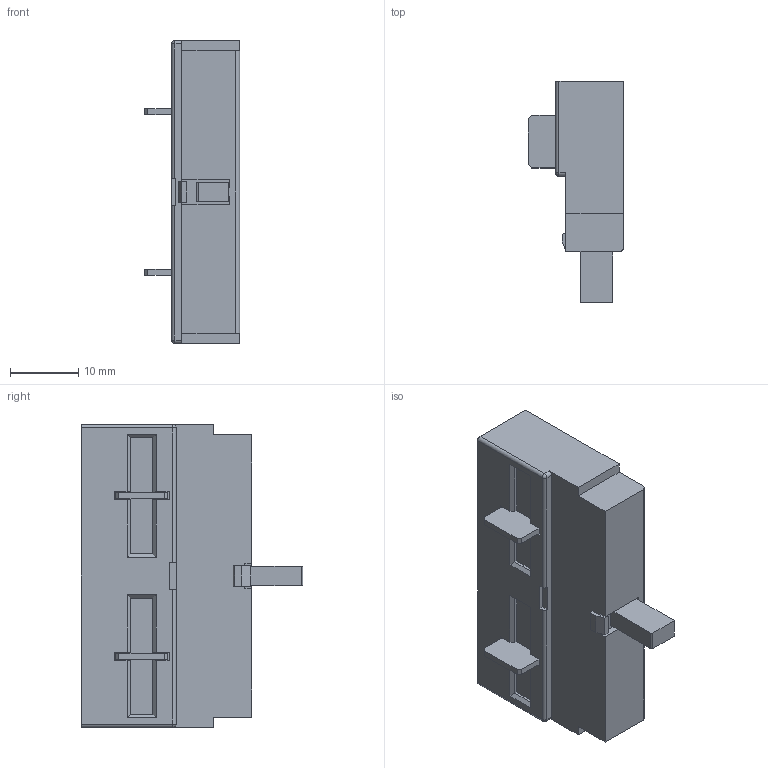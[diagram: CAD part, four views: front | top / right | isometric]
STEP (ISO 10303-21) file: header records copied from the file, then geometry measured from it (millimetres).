
FILE_DESCRIPTION((''),'2;1');
FILE_NAME('AX51','2024-05-08T09:37:31',('dyhoumm'),(''),'CREO PARAMETRIC BY PTC INC, 2020044','CREO PARAMETRIC BY PTC INC, 2020044','');
FILE_SCHEMA(('CONFIG_CONTROL_DESIGN','SHAPE_APPEARANCE_LAYERS_GROUPS'));
Length unit declared in the file: millimetre
Products named in the file (1): AX51
Bounding box: 14 x 32.5 x 44.5 mm (x, y, z)
Volume: 10113.8 mm3; surface area: 4321.4 mm2
Topology: 1 solids, 7 shells, 161 faces, 408 edges, 270 vertices
Faces by surface type: plane 133, cylinder 26, sphere 2
Entity records: 5733 total; most frequent: CARTESIAN_POINT 1046, ORIENTED_EDGE 796, DIRECTION 766, EDGE_CURVE 406, VECTOR 338, LINE 338, VERTEX_POINT 270, AXIS2_PLACEMENT_3D 214
